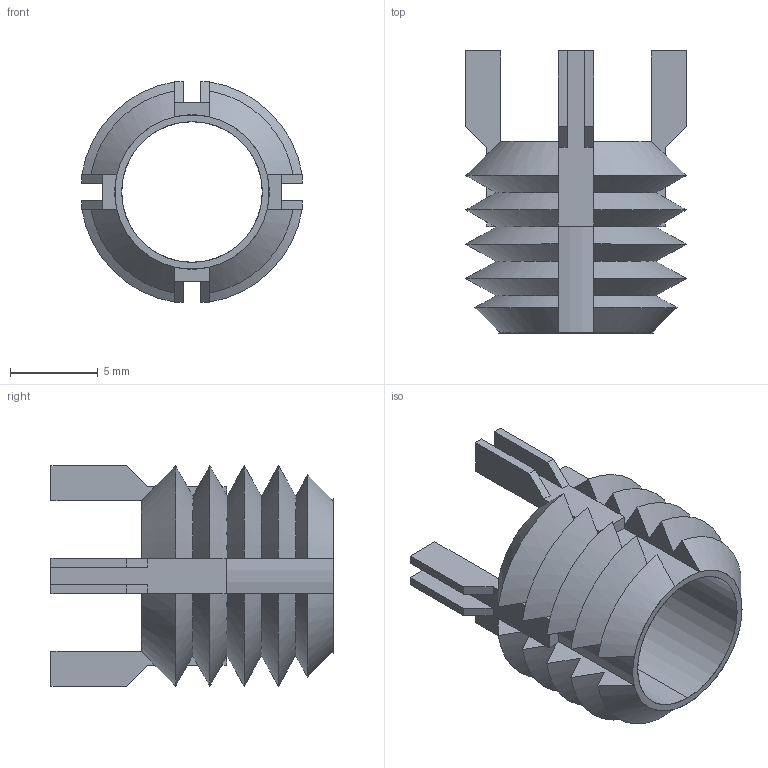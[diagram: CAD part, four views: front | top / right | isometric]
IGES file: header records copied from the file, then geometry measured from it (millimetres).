
Start section: SolidWorks IGES file using analytic representation for surfaces
Global section: file name: C:\Users\IanO\Desktop\TR1530_v2\TR1530_v2_20230501_IGES\TR1530.66644.igs; native system: SolidWorks 2019; preprocessor: SolidWorks 2019; author: IanO; date: 230502.140342; units: millimetre
Bounding box: 12.56 x 16.06 x 12.56 mm (x, y, z)
Surface area: 1196.4 mm2 (no closed solid volume)
Topology: 0 solids, 0 shells, 136 faces, 816 edges, 816 vertices
Faces by surface type: bspline 90, revolution 46
